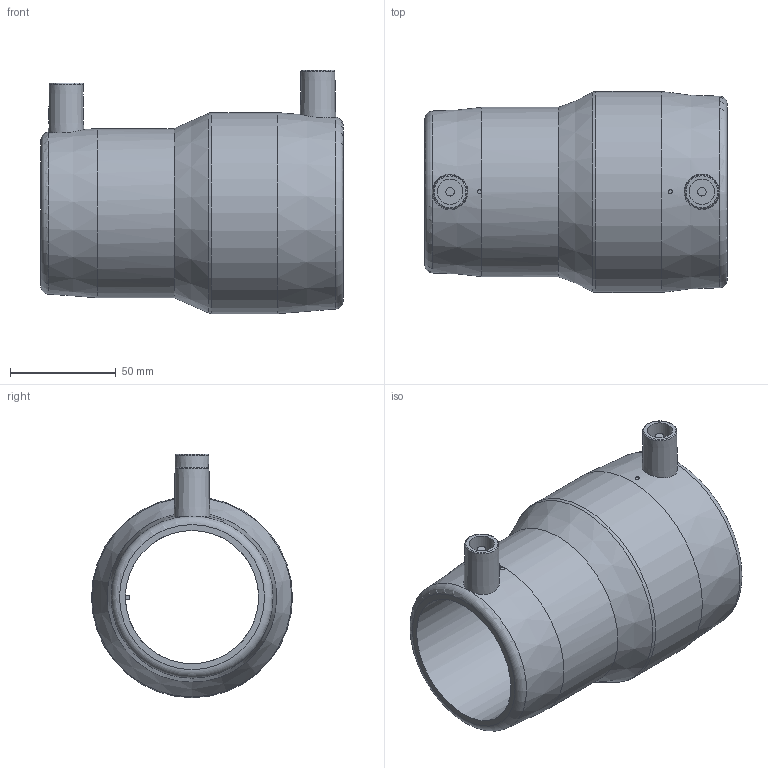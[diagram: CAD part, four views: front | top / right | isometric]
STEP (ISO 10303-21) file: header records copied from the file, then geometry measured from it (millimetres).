
FILE_DESCRIPTION(/* description */ ('Unknown'),/* implementation_level */ '2;1');
FILE_NAME(/* name */ 'REP075063C',/* time_stamp */ '2021-05-25T17:43:34+02:00',/* author */ ('Unknown'),/* organization */ ('Unknown'),/* preprocessor_version */ 'ST-DEVELOPER v16.7',/* originating_system */ 'Solid Edge',/* authorisation */ 'Unknown');
FILE_SCHEMA (('AUTOMOTIVE_DESIGN {1 0 10303 214 3 1 1}'));
Length unit declared in the file: millimetre
Products named in the file (1): REP075063C
Bounding box: 143 x 95 x 115 mm (x, y, z)
Volume: 320779.1 mm3; surface area: 76616.7 mm2
Topology: 1 solids, 1 shells, 36 faces, 79 edges, 49 vertices
Faces by surface type: plane 15, cylinder 10, cone 6, torus 5
Full cylindrical faces by diameter (mm): 2 x2, 4 x2, 12 x2, 63 x1, 75 x1, 80 x1, 95 x1
Entity records: 849 total; most frequent: CARTESIAN_POINT 180, DIRECTION 142, ORIENTED_EDGE 90, AXIS2_PLACEMENT_3D 66, EDGE_LOOP 64, FACE_BOUND 64, EDGE_CURVE 45, VERTEX_POINT 37
